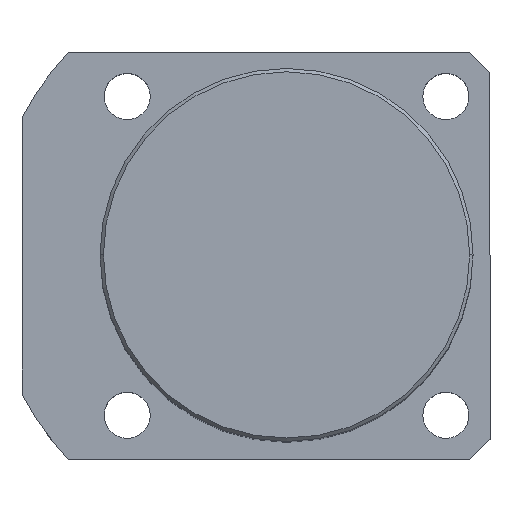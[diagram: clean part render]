
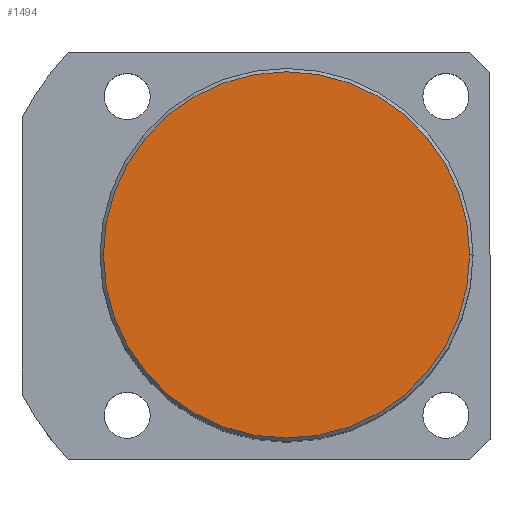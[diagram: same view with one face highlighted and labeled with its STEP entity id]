
A CAD part, top view. The second image highlights one B-rep face of the part: STEP entity #1494.
In plain terms, the highlighted planar face has unit normal (0, 0, 1).
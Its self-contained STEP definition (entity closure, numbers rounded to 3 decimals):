
#139 = DIRECTION ( 'NONE',  ( 0., 0., 1. ) ) ;
#224 = AXIS2_PLACEMENT_3D ( 'NONE', #1049, #139, #1939 ) ;
#233 = DIRECTION ( 'NONE',  ( 0., 0., 1. ) ) ;
#241 = VERTEX_POINT ( 'NONE', #1310 ) ;
#301 = CIRCLE ( 'NONE', #1415, 27. ) ;
#324 = EDGE_CURVE ( 'NONE', #241, #1438, #1110, .T. ) ;
#404 = ORIENTED_EDGE ( 'NONE', *, *, #324, .T. ) ;
#446 = EDGE_CURVE ( 'NONE', #1438, #241, #301, .T. ) ;
#471 = CARTESIAN_POINT ( 'NONE',  ( 0., 0., 90. ) ) ;
#479 = DIRECTION ( 'NONE',  ( 1., 0., 0. ) ) ;
#718 = DIRECTION ( 'NONE',  ( 1., 0., 0. ) ) ;
#992 = CARTESIAN_POINT ( 'NONE',  ( 27., 0., 90. ) ) ;
#1049 = CARTESIAN_POINT ( 'NONE',  ( 0., 0., 90. ) ) ;
#1110 = CIRCLE ( 'NONE', #224, 27. ) ;
#1281 = AXIS2_PLACEMENT_3D ( 'NONE', #1778, #233, #718 ) ;
#1310 = CARTESIAN_POINT ( 'NONE',  ( -27., 0., 90. ) ) ;
#1316 = ORIENTED_EDGE ( 'NONE', *, *, #446, .T. ) ;
#1337 = FACE_OUTER_BOUND ( 'NONE', #1482, .T. ) ;
#1371 = DIRECTION ( 'NONE',  ( 0., 0., 1. ) ) ;
#1415 = AXIS2_PLACEMENT_3D ( 'NONE', #471, #1371, #479 ) ;
#1438 = VERTEX_POINT ( 'NONE', #992 ) ;
#1482 = EDGE_LOOP ( 'NONE', ( #404, #1316 ) ) ;
#1494 = ADVANCED_FACE ( 'NONE', ( #1337 ), #1626, .T. ) ;
#1626 = PLANE ( 'NONE',  #1281 ) ;
#1778 = CARTESIAN_POINT ( 'NONE',  ( 0., 0., 90. ) ) ;
#1939 = DIRECTION ( 'NONE',  ( 1., 0., 0. ) ) ;
